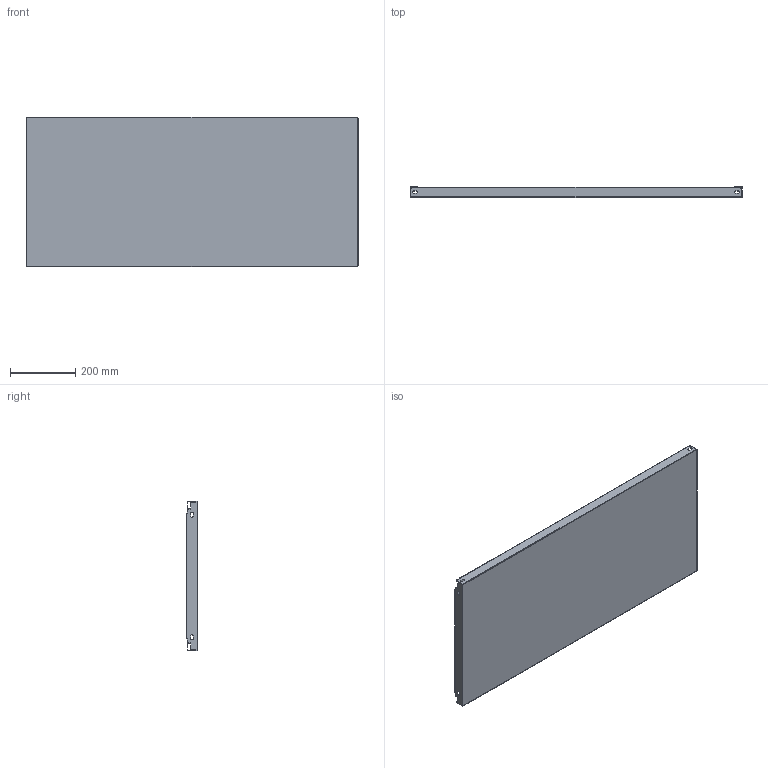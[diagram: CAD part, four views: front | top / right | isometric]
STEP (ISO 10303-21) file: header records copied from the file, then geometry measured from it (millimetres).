
FILE_DESCRIPTION(/* description */ ('Alibre Inc.'),/* implementation_level */ '2;1');
FILE_NAME(/* name */ 'export-9AD15B3F-487A-4089-9A95-439E0A2CBA99',/* time_stamp */ '2022-04-19T13:21:24-05:00',/* author */ (''),/* organization */ (''),/* preprocessor_version */ 'ST-DEVELOPER v17',/* originating_system */ 'Alibre',/* authorisation */ '');
FILE_SCHEMA (('AUTOMOTIVE_DESIGN'));
Length unit declared in the file: centimetre
Bounding box: 1016 x 34.09 x 457.2 mm (x, y, z)
Volume: 498829.3 mm3; surface area: 1269930.8 mm2
Topology: 1 solids, 1 shells, 130 faces, 384 edges, 256 vertices
Faces by surface type: plane 74, cylinder 56
Entity records: 4285 total; most frequent: ORIENTED_EDGE 768, CARTESIAN_POINT 758, DIRECTION 670, EDGE_CURVE 384, VECTOR 264, LINE 264, VERTEX_POINT 256, AXIS2_PLACEMENT_3D 238
